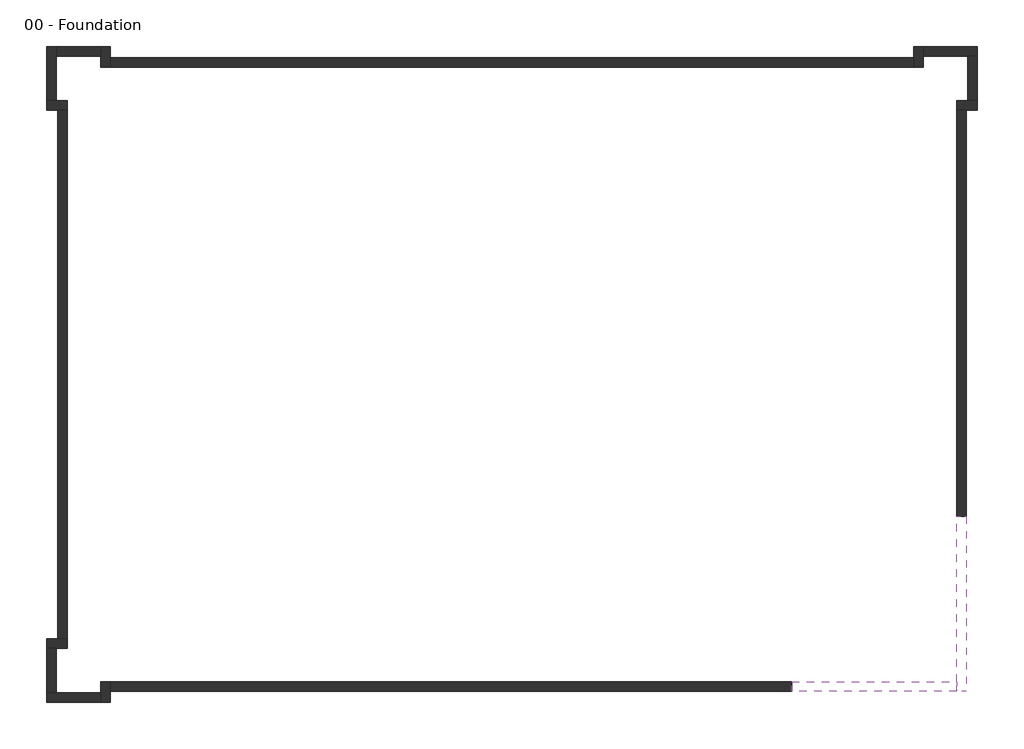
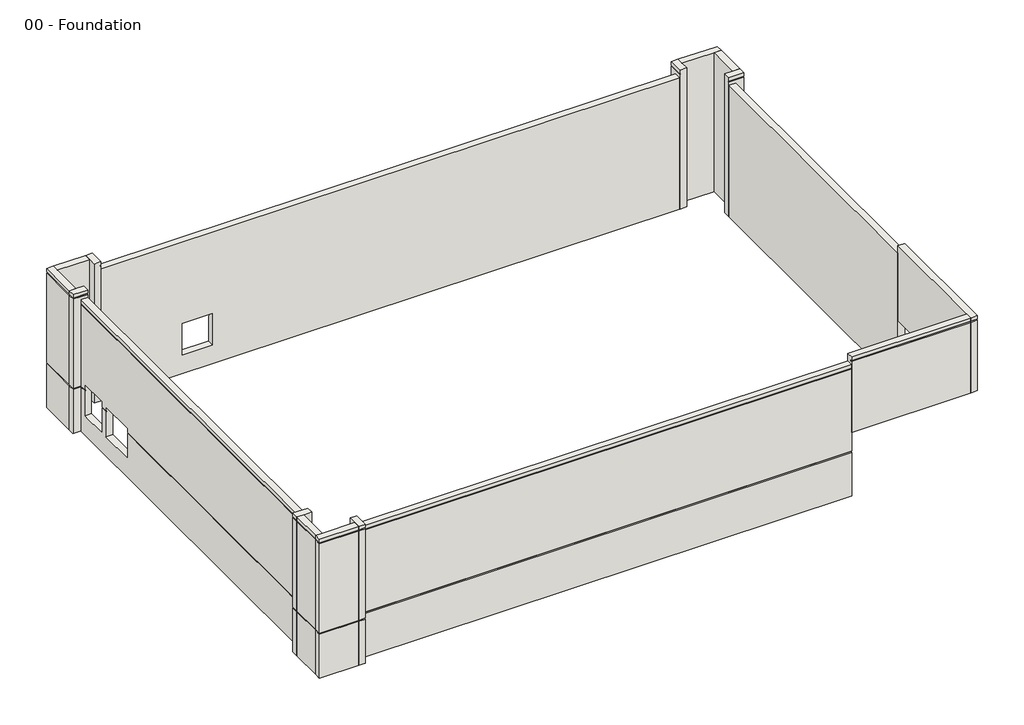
# One storey: 18 walls.
"""IFC4 building model written with IfcOpenShell, lengths in millimetres."""

import ifcopenshell
import ifcopenshell.guid

model = None  # the IFC model being written
_history = None  # IfcOwnerHistory: only IFC2X3 demands one
_inside = {}  # id of a spatial element -> (the spatial element, [elements in it])
_under = {}  # id of a project, library or spatial element -> (it, [spatial elements below it])
_declared = {}  # id of a project -> (the project, [libraries it declares])
_typed = {}  # id of a type object -> (the type object, [elements of that type])
_made_of = {}  # id of a material, layer set ... -> (it, [elements and type objects made of it])


def new_model(schema):
    """Start an empty IFC model of exactly this schema.

    Asked for "IFC4X3", IfcOpenShell would pick the latest addendum, in which some entities
    have other attributes; the version numbers below select the first issue.
    IFC2X3 requires an IfcOwnerHistory on every rooted entity: one is made here for all.
    """
    global model, _history
    if schema == "IFC4X3":
        model = ifcopenshell.file(schema_version=(4, 3, 0, 0))
    else:
        model = ifcopenshell.file(schema=schema)
    _inside.clear()
    _under.clear()
    _declared.clear()
    _typed.clear()
    _made_of.clear()
    _history = None
    if model.schema == "IFC2X3":
        org = make("IfcOrganization", Name="unknown")
        user = make(
            "IfcPersonAndOrganization",
            ThePerson=make("IfcPerson", FamilyName="unknown"),
            TheOrganization=org,
        )
        app = make(
            "IfcApplication",
            ApplicationDeveloper=org,
            Version="unknown",
            ApplicationFullName="unknown",
            ApplicationIdentifier="unknown",
        )
        _history = make(
            "IfcOwnerHistory",
            OwningUser=user,
            OwningApplication=app,
            ChangeAction="ADDED",
            CreationDate=0,
        )
    return model


def make(cls, **values):
    """One entity of the class cls with the attributes given. An attribute that is None is left unset."""
    return model.create_entity(
        cls, **{name: value for name, value in values.items() if value is not None}
    )


def rooted(cls, **values):
    """An entity with a GlobalId (a new one), such as an element, a storey or a relation."""
    return make(cls, GlobalId=ifcopenshell.guid.new(), OwnerHistory=_history, **values)


def si_unit(unit_type, name, prefix=None):
    """IfcSIUnit, for example si_unit("LENGTHUNIT", "METRE", prefix="MILLI")."""
    return make("IfcSIUnit", UnitType=unit_type, Prefix=prefix, Name=name)


def assignment(units):
    """IfcUnitAssignment: the units of a project."""
    return None if units is None else make("IfcUnitAssignment", Units=units)


def point(xyz):
    """IfcCartesianPoint."""
    return None if xyz is None else make("IfcCartesianPoint", Coordinates=xyz)


def direction(xyz):
    """IfcDirection."""
    return None if xyz is None else make("IfcDirection", DirectionRatios=xyz)


def frame(location, z_axis=None, x_axis=None):
    """IfcAxis2Placement3D, a coordinate frame: its origin and axes. An axis left out is left unset."""
    return make(
        "IfcAxis2Placement3D",
        Location=point(location),
        Axis=direction(z_axis),
        RefDirection=direction(x_axis),
    )


def origin():
    """The frame at (0, 0, 0) with its axes left unset."""
    return frame((0.0, 0.0, 0.0))


def place(relative_to, where):
    """IfcLocalPlacement: puts the frame where relative to a parent placement (None: the world)."""
    return make(
        "IfcLocalPlacement", PlacementRelTo=relative_to, RelativePlacement=where
    )


def context(
    kind, dimensions, precision=None, world=None, true_north=None, identifier=None
):
    """IfcGeometricRepresentationContext, for example the 3D "Model" context."""
    return make(
        "IfcGeometricRepresentationContext",
        ContextIdentifier=identifier,
        ContextType=kind,
        CoordinateSpaceDimension=dimensions,
        Precision=precision,
        WorldCoordinateSystem=world,
        TrueNorth=true_north,
    )


def project(units=None, contexts=None):
    """IfcProject with its units and contexts."""
    return rooted(
        "IfcProject",
        Name="project",
        RepresentationContexts=contexts,
        UnitsInContext=assignment(units),
    )


def spatial(cls, under=None, at=None, **own):
    """A site, building, storey or space (cls), placed at a placement, below another one or the project."""
    s = rooted(cls, ObjectPlacement=at, **own)
    if under is not None:
        _under.setdefault(under.id(), (under, []))[1].append(s)
    return s


def polyline(points):
    """IfcPolyline through the points."""
    return make("IfcPolyline", Points=[point(p) for p in points])


def outline(outer, holes=None, kind="AREA"):
    """IfcArbitraryClosedProfileDef: a profile drawn as a closed curve; with holes, ...WithVoids."""
    if holes is None:
        return make("IfcArbitraryClosedProfileDef", ProfileType=kind, OuterCurve=outer)
    return make(
        "IfcArbitraryProfileDefWithVoids",
        ProfileType=kind,
        OuterCurve=outer,
        InnerCurves=holes,
    )


def extrude(swept, where, along, depth):
    """IfcExtrudedAreaSolid: the profile swept, set in the frame where, extruded along a direction by depth."""
    return make(
        "IfcExtrudedAreaSolid",
        SweptArea=swept,
        Position=where,
        ExtrudedDirection=direction(along),
        Depth=depth,
    )


def faces_of(points, faces, orient=None, outer=None):
    """IfcFace entities. A face is a list of loops; a loop is a list of indices into points, from 0.

    orient and outer hold one flag for each loop. By default every Orientation is true, the
    first loop of a face is its IfcFaceOuterBound and the others are IfcFaceBound.
    """
    made = []
    for i, loops in enumerate(faces):
        bounds = []
        for j, loop in enumerate(loops):
            is_outer = j == 0 if outer is None else outer[i][j]
            bounds.append(
                make(
                    "IfcFaceOuterBound" if is_outer else "IfcFaceBound",
                    Bound=make("IfcPolyLoop", Polygon=[points[k] for k in loop]),
                    Orientation=True if orient is None else orient[i][j],
                )
            )
        made.append(make("IfcFace", Bounds=bounds))
    return made


def faceted_brep(points, faces, orient=None, outer=None, voids=None):
    """IfcFacetedBrep: a solid bounded by flat faces; with voids (closed shells), ...WithVoids."""
    shared = [point(p) for p in points]
    hull = make("IfcClosedShell", CfsFaces=faces_of(shared, faces, orient, outer))
    if voids is None:
        return make("IfcFacetedBrep", Outer=hull)
    return make(
        "IfcFacetedBrepWithVoids",
        Outer=hull,
        Voids=[
            make(cls, CfsFaces=faces_of(shared, fs, o, b)) for cls, fs, o, b in voids
        ],
    )


def shape(context_of_items, identifier, shape_type, items):
    """IfcShapeRepresentation: the items that make up one representation, for example the "Body"."""
    return make(
        "IfcShapeRepresentation",
        ContextOfItems=context_of_items,
        RepresentationIdentifier=identifier,
        RepresentationType=shape_type,
        Items=items,
    )


def made_of(thing, what):
    """Note that an element or type object is made of a material, layer set ...; save() writes the relation."""
    if what is not None:
        _made_of.setdefault(what.id(), (what, []))[1].append(thing)
    return thing


def element(
    cls,
    number,
    at=None,
    inside=None,
    cuts=None,
    type_object=None,
    material=None,
    context=None,
    identifier="Body",
    shape_type=None,
    held_by="IfcProductDefinitionShape",
    body=None,
    shapes=None,
    **own,
):
    """One element of the class cls, such as IfcWall. Its Tag is "e" and its number.

    at: its placement. inside: the storey or other place that contains it. cuts: it is an
    opening in that element (IfcRelVoidsElement). A single representation is given by context,
    identifier, shape_type and body (its items); several are given by shapes. held_by: the class
    of the entity that holds the representations. save() writes the other relations.
    """
    e = rooted(cls, Tag="e%d" % number, ObjectPlacement=at, **own)
    if body is not None:
        shapes = [shape(context, identifier, shape_type, body)]
    if shapes is not None:
        e.Representation = make(held_by, Representations=shapes)
    if inside is not None:
        _inside.setdefault(inside.id(), (inside, []))[1].append(e)
    if cuts is not None:
        rooted(
            "IfcRelVoidsElement", RelatingBuildingElement=cuts, RelatedOpeningElement=e
        )
    if type_object is not None:
        _typed.setdefault(type_object.id(), (type_object, []))[1].append(e)
    return made_of(e, material)


def aggregate(whole, parts):
    """IfcRelAggregates: a whole, such as a stair, and the parts it consists of."""
    return rooted("IfcRelAggregates", RelatingObject=whole, RelatedObjects=parts)


def save(model, path):
    """Write the relations noted so far, then the file.

    IfcRelAggregates (storeys below a building ...), IfcRelContainedInSpatialStructure (elements
    in a storey), IfcRelDefinesByType, IfcRelAssociatesMaterial and IfcRelDeclares: one each for
    every whole, place, type object, material and project.
    """
    for whole, parts in _under.values():
        aggregate(whole, parts)
    for where, things in _inside.values():
        rooted(
            "IfcRelContainedInSpatialStructure",
            RelatedElements=things,
            RelatingStructure=where,
        )
    for kind, things in _typed.values():
        rooted("IfcRelDefinesByType", RelatedObjects=things, RelatingType=kind)
    for what, things in _made_of.values():
        rooted("IfcRelAssociatesMaterial", RelatedObjects=things, RelatingMaterial=what)
    for by, libraries in _declared.values():
        rooted("IfcRelDeclares", RelatingContext=by, RelatedDefinitions=libraries)
    model.write(path)


model = new_model("IFC4")

# Units and contexts
model_context = context("Model", 3, world=origin())
ifc_project = project(units=[si_unit("LENGTHUNIT", "METRE", prefix="MILLI")], contexts=[model_context])

# Site, building, storey
site = spatial("IfcSite", under=ifc_project)
building = spatial("IfcBuilding", under=site)
storey = spatial("IfcBuildingStorey", under=building, Name="00 - Foundation", Elevation=-1250.0)

# Walls
placement = place(None, origin())
element("IfcWall", 1, ObjectType="Exterior - Render on Brick on Block @ Entry", at=placement, inside=storey, context=model_context, shape_type="Brep", body=[
    faceted_brep([(18351.5272279, -6481.9313057, 3000.0), (18351.5272279, -13977.9313057, 3000.0), (18351.5272279, -14406.9313057, 3000.0), (18351.5272279, -14406.9313057, 7700.0), (18351.5272279, -14331.9313057, 7700.0), (18351.5272279, -14331.9313057, 7775.0), (18351.5272279, -14406.9313057, 7775.0), (18351.5272279, -14406.9313057, 8000.0), (18351.5272279, -13977.9313057, 8000.0), (18351.5272279, -6481.9313057, 8000.0), (18351.5272279, -6481.9313057, 7500.0), (18780.5272279, -14406.9313057, 3000.0), (18780.5272279, -6481.9313057, 3000.0), (18780.5272279, -6481.9313057, 7200.0), (18780.5272279, -6481.9313057, 7275.0), (18780.5272279, -6481.9313057, 7500.0), (18780.5272279, -6481.9313057, 7700.0), (18780.5272279, -14406.9313057, 7700.0), (18780.5272279, -6481.9313057, 8000.0), (18780.5272279, -14406.9313057, 8000.0), (18780.5272279, -14406.9313057, 7775.0), (18780.5272279, -6481.9313057, 7775.0), (18705.5272279, -6481.9313057, 7775.0), (18705.5272279, -6481.9313057, 7700.0), (18705.5272279, -14331.9313057, 7775.0), (18705.5272279, -14331.9313057, 7700.0)], [[[0, 1, 2, 3, 4, 5, 6, 7, 8, 9, 10]], [[11, 12, 13, 14, 15, 16, 17]], [[18, 19, 20, 21]], [[2, 1, 0, 12, 11]], [[9, 8, 7, 19, 18]], [[0, 10, 9, 18, 21, 22, 23, 16, 15, 14, 13, 12]], [[24, 22, 21, 20, 6, 5]], [[23, 25, 4, 3, 17, 16]], [[22, 24, 25, 23]], [[2, 11, 17, 3]], [[19, 7, 6, 20]], [[25, 24, 5, 4]]]),
])
element("IfcWall", 2, ObjectType="Exterior - Render on Brick on Block @ Entry", at=placement, inside=storey, context=model_context, shape_type="Brep", body=[
    faceted_brep([(18351.5272279, -13977.9313057, 3000.0), (10855.5272279, -13977.9313057, 3000.0), (10855.5272279, -13977.9313057, 7500.0), (10855.5272279, -13977.9313057, 8000.0), (18351.5272279, -13977.9313057, 8000.0), (10855.5272279, -14406.9313057, 3000.0), (18351.5272279, -14406.9313057, 3000.0), (18351.5272279, -14406.9313057, 7700.0), (10855.5272279, -14406.9313057, 7700.0), (10855.5272279, -14406.9313057, 7500.0), (10855.5272279, -14406.9313057, 7275.0), (10855.5272279, -14406.9313057, 7200.0), (18351.5272279, -14406.9313057, 8000.0), (10855.5272279, -14406.9313057, 8000.0), (10855.5272279, -14406.9313057, 7775.0), (18351.5272279, -14406.9313057, 7775.0), (10855.5272279, -14331.9313057, 7700.0), (10855.5272279, -14331.9313057, 7775.0), (18351.5272279, -14331.9313057, 7700.0), (18351.5272279, -14331.9313057, 7775.0)], [[[0, 1, 2, 3, 4]], [[5, 6, 7, 8, 9, 10, 11]], [[12, 13, 14, 15]], [[1, 0, 6, 5]], [[3, 2, 1, 5, 11, 10, 9, 8, 16, 17, 14, 13]], [[4, 3, 13, 12]], [[16, 18, 19, 17]], [[0, 4, 12, 15, 19, 18, 7, 6]], [[17, 19, 15, 14]], [[18, 16, 8, 7]]]),
])
element("IfcWall", 3, ObjectType="Exterior - Render on Brick on Block", at=placement, inside=storey, context=model_context, shape_type="Brep", body=[
    faceted_brep([(10855.5272279, -13977.9313057, -1250.0), (-20031.4727721, -13977.9313057, -1250.0), (-20031.4727721, -13977.9313057, 7500.0), (10855.5272279, -13977.9313057, 7500.0), (10855.5272279, -13977.9313057, 3000.0), (10855.5272279, -14406.9313057, 7500.0), (-20031.4727721, -14406.9313057, 7500.0), (-20031.4727721, -14406.9313057, 7275.0), (10855.5272279, -14406.9313057, 7275.0), (-20031.4727721, -14406.9313057, -1250.0), (10855.5272279, -14406.9313057, -1250.0), (10855.5272279, -14406.9313057, 1675.0), (-20031.4727721, -14406.9313057, 1675.0), (-20031.4727721, -14406.9313057, 1750.0), (10855.5272279, -14406.9313057, 1750.0), (10855.5272279, -14406.9313057, 7200.0), (-20031.4727721, -14406.9313057, 7200.0), (10855.5272279, -14331.9313057, 7275.0), (10855.5272279, -14331.9313057, 7200.0), (10855.5272279, -14331.9313057, 1750.0), (10855.5272279, -14331.9313057, 1675.0), (10855.5272279, -14381.9313057, -1250.0), (-20031.4727721, -14381.9313057, -1250.0), (-20031.4727721, -14331.9313057, 1750.0), (-20031.4727721, -14331.9313057, 1675.0), (-20031.4727721, -14331.9313057, 7275.0), (-20031.4727721, -14331.9313057, 7200.0)], [[[0, 1, 2, 3, 4]], [[5, 6, 7, 8]], [[9, 10, 11, 12]], [[13, 14, 15, 16]], [[3, 2, 6, 5]], [[0, 4, 3, 5, 8, 17, 18, 15, 14, 19, 20, 11, 10, 21]], [[1, 0, 21, 22]], [[21, 10, 9, 22]], [[14, 13, 23, 19]], [[12, 11, 20, 24]], [[20, 19, 23, 24]], [[25, 17, 8, 7]], [[18, 26, 16, 15]], [[17, 25, 26, 18]], [[2, 1, 22, 9, 12, 24, 23, 13, 16, 26, 25, 7, 6]]]),
])
element("IfcWall", 4, ObjectType="Exterior - Render on Brick on Block", at=placement, inside=storey, context=model_context, shape_type="Brep", body=[
    faceted_brep([(-20460.4727721, -13977.9313057, -1250.0), (-20460.4727721, -14477.7313057, -1250.0), (-20460.4727721, -14906.7313057, -1250.0), (-20460.4727721, -14906.7313057, 1675.0), (-20460.4727721, -14831.7313057, 1675.0), (-20460.4727721, -14831.7313057, 1750.0), (-20460.4727721, -14906.7313057, 1750.0), (-20460.4727721, -14906.7313057, 7700.0), (-20460.4727721, -14831.7313057, 7700.0), (-20460.4727721, -14831.7313057, 7775.0), (-20460.4727721, -14906.7313057, 7775.0), (-20460.4727721, -14906.7313057, 8000.0), (-20460.4727721, -14477.7313057, 8000.0), (-20460.4727721, -13977.9313057, 8000.0), (-20031.4727721, -13977.9313057, 8000.0), (-20031.4727721, -14906.7313057, 8000.0), (-20031.4727721, -14906.7313057, 7775.0), (-20031.4727721, -13977.9313057, 7775.0), (-20031.4727721, -14906.7313057, -1250.0), (-20031.4727721, -14406.9313057, -1250.0), (-20031.4727721, -13977.9313057, -1250.0), (-20031.4727721, -13977.9313057, 7500.0), (-20031.4727721, -13977.9313057, 7700.0), (-20031.4727721, -14906.7313057, 7700.0), (-20031.4727721, -14906.7313057, 1750.0), (-20031.4727721, -14406.9313057, 1750.0), (-20031.4727721, -14331.9313057, 1750.0), (-20031.4727721, -14331.9313057, 1675.0), (-20031.4727721, -14406.9313057, 1675.0), (-20031.4727721, -14906.7313057, 1675.0), (-20056.4727721, -13977.9313057, -1250.0), (-20056.4727721, -14906.7313057, -1250.0), (-20106.4727721, -14331.9313057, 1675.0), (-20106.4727721, -14331.9313057, 1750.0), (-20106.4727721, -14831.7313057, 1750.0), (-20106.4727721, -14831.7313057, 1675.0), (-20106.4727721, -14831.7313057, 7775.0), (-20106.4727721, -13977.9313057, 7775.0), (-20106.4727721, -13977.9313057, 7700.0), (-20106.4727721, -14831.7313057, 7700.0)], [[[0, 1, 2, 3, 4, 5, 6, 7, 8, 9, 10, 11, 12, 13]], [[14, 15, 16, 17]], [[18, 19, 20, 21, 22, 23, 24, 25, 26, 27, 28, 29]], [[13, 12, 11, 15, 14]], [[2, 1, 0, 30, 31]], [[32, 33, 34, 35]], [[36, 37, 17, 16, 10, 9]], [[38, 39, 8, 7, 23, 22]], [[37, 36, 39, 38]], [[0, 13, 14, 17, 37, 38, 22, 21, 20, 30]], [[20, 19, 18, 31, 30]], [[34, 33, 26, 25, 24, 6, 5]], [[32, 35, 4, 3, 29, 28, 27]], [[33, 32, 27, 26]], [[15, 11, 10, 16]], [[2, 31, 18, 29, 3]], [[6, 24, 23, 7]], [[35, 34, 5, 4]], [[39, 36, 9, 8]]]),
])
element("IfcWall", 5, ObjectType="Exterior - Render on Brick on Block", at=placement, inside=storey, context=model_context, shape_type="Brep", body=[
    faceted_brep([(-20460.4727721, -14477.7313057, -1250.0), (-22490.4727721, -14477.7313057, -1250.0), (-22919.4727721, -14477.7313057, -1250.0), (-22919.4727721, -14477.7313057, 1675.0), (-22844.4727721, -14477.7313057, 1675.0), (-22844.4727721, -14477.7313057, 1750.0), (-22919.4727721, -14477.7313057, 1750.0), (-22919.4727721, -14477.7313057, 7700.0), (-22844.4727721, -14477.7313057, 7700.0), (-22844.4727721, -14477.7313057, 7775.0), (-22919.4727721, -14477.7313057, 7775.0), (-22919.4727721, -14477.7313057, 8000.0), (-22490.4727721, -14477.7313057, 8000.0), (-20460.4727721, -14477.7313057, 8000.0), (-20460.4727721, -14906.7313057, 8000.0), (-22919.4727721, -14906.7313057, 8000.0), (-22919.4727721, -14906.7313057, 7775.0), (-20460.4727721, -14906.7313057, 7775.0), (-22919.4727721, -14906.7313057, -1250.0), (-20460.4727721, -14906.7313057, -1250.0), (-20460.4727721, -14906.7313057, 1675.0), (-22919.4727721, -14906.7313057, 1675.0), (-22919.4727721, -14906.7313057, 1750.0), (-20460.4727721, -14906.7313057, 1750.0), (-20460.4727721, -14906.7313057, 7700.0), (-22919.4727721, -14906.7313057, 7700.0), (-20460.4727721, -14881.7313057, -1250.0), (-22919.4727721, -14881.7313057, -1250.0), (-22844.4727721, -14831.7313057, 1675.0), (-20460.4727721, -14831.7313057, 1675.0), (-20460.4727721, -14831.7313057, 1750.0), (-22844.4727721, -14831.7313057, 1750.0), (-22844.4727721, -14831.7313057, 7775.0), (-22844.4727721, -14831.7313057, 7700.0), (-20460.4727721, -14831.7313057, 7700.0), (-20460.4727721, -14831.7313057, 7775.0)], [[[0, 1, 2, 3, 4, 5, 6, 7, 8, 9, 10, 11, 12, 13]], [[14, 15, 16, 17]], [[18, 19, 20, 21]], [[22, 23, 24, 25]], [[13, 12, 11, 15, 14]], [[2, 1, 0, 26, 27]], [[28, 29, 30, 31]], [[32, 33, 34, 35]], [[0, 13, 14, 17, 35, 34, 24, 23, 30, 29, 20, 19, 26]], [[19, 18, 27, 26]], [[31, 30, 23, 22, 6, 5]], [[29, 28, 4, 3, 21, 20]], [[9, 32, 35, 17, 16, 10]], [[34, 33, 8, 7, 25, 24]], [[15, 11, 10, 16]], [[2, 27, 18, 21, 3]], [[6, 22, 25, 7]], [[28, 31, 5, 4]], [[33, 32, 9, 8]]]),
])
element("IfcWall", 6, ObjectType="Exterior - Render on Brick on Block", at=placement, inside=storey, context=model_context, shape_type="SweptSolid", body=[
    extrude(outline(polyline([(-1250.0, -22490.4727721), (8000.0, -22490.4727721), (8000.0, -22919.4727721), (7775.0, -22919.4727721), (7775.0, -22844.4727721), (7700.0, -22844.4727721), (7700.0, -22919.4727721), (1750.0, -22919.4727721), (1750.0, -22844.4727721), (1675.0, -22844.4727721), (1675.0, -22919.4727721), (-1250.0, -22919.4727721), (-1250.0, -22894.4727721), (-1250.0, -22490.4727721)])), frame((0.0, -14477.7313057, 0.0), z_axis=(0.0, 1.0, 0.0), x_axis=(0.0, 0.0, 1.0)), (0.0, 0.0, 1.0), 2030.0),
])
element("IfcWall", 7, ObjectType="Exterior - Render on Brick on Block", at=placement, inside=storey, context=model_context, shape_type="Brep", body=[
    faceted_brep([(-22919.4727721, -12447.7313057, -1250.0), (-22490.4727721, -12447.7313057, -1250.0), (-21990.4727721, -12447.7313057, -1250.0), (-21990.4727721, -12447.7313057, 8000.0), (-22490.4727721, -12447.7313057, 8000.0), (-22919.4727721, -12447.7313057, 8000.0), (-22919.4727721, -12447.7313057, 7775.0), (-22844.4727721, -12447.7313057, 7775.0), (-22844.4727721, -12447.7313057, 7700.0), (-22919.4727721, -12447.7313057, 7700.0), (-22919.4727721, -12447.7313057, 1750.0), (-22844.4727721, -12447.7313057, 1750.0), (-22844.4727721, -12447.7313057, 1675.0), (-22919.4727721, -12447.7313057, 1675.0), (-22919.4727721, -12018.7313057, 8000.0), (-21990.4727721, -12018.7313057, 8000.0), (-21990.4727721, -12018.7313057, 7775.0), (-22919.4727721, -12018.7313057, 7775.0), (-21990.4727721, -12018.7313057, -1250.0), (-22419.4727721, -12018.7313057, -1250.0), (-22919.4727721, -12018.7313057, -1250.0), (-22919.4727721, -12018.7313057, 1675.0), (-22419.4727721, -12018.7313057, 1675.0), (-22344.4727721, -12018.7313057, 1675.0), (-22344.4727721, -12018.7313057, 1750.0), (-22419.4727721, -12018.7313057, 1750.0), (-22919.4727721, -12018.7313057, 1750.0), (-22919.4727721, -12018.7313057, 7700.0), (-21990.4727721, -12018.7313057, 7700.0), (-21990.4727721, -12018.7313057, 7500.0), (-22919.4727721, -12043.7313057, -1250.0), (-21990.4727721, -12043.7313057, -1250.0), (-22844.4727721, -12093.7313057, 1675.0), (-22844.4727721, -12093.7313057, 1750.0), (-22344.4727721, -12093.7313057, 1750.0), (-22344.4727721, -12093.7313057, 1675.0), (-22844.4727721, -12093.7313057, 7775.0), (-21990.4727721, -12093.7313057, 7775.0), (-21990.4727721, -12093.7313057, 7700.0), (-22844.4727721, -12093.7313057, 7700.0)], [[[0, 1, 2, 3, 4, 5, 6, 7, 8, 9, 10, 11, 12, 13]], [[14, 15, 16, 17]], [[18, 19, 20, 21, 22, 23, 24, 25, 26, 27, 28, 29]], [[5, 4, 3, 15, 14]], [[2, 1, 0, 30, 31]], [[32, 33, 34, 35]], [[36, 37, 38, 39]], [[5, 14, 17, 6]], [[30, 0, 13, 21, 20]], [[26, 10, 9, 27]], [[20, 19, 18, 31, 30]], [[34, 33, 11, 10, 26, 25, 24]], [[32, 35, 23, 22, 21, 13, 12]], [[33, 32, 12, 11]], [[37, 36, 7, 6, 17, 16]], [[39, 38, 28, 27, 9, 8]], [[36, 39, 8, 7]], [[3, 2, 31, 18, 29, 28, 38, 37, 16, 15]], [[35, 34, 24, 23]]]),
])
element("IfcWall", 8, ObjectType="Exterior - Render on Brick on Block", at=placement, inside=storey, context=model_context, shape_type="Brep", body=[
    faceted_brep([(-21990.4727721, -12018.7313057, -1250.0), (-21990.4727721, 11955.0686943, -1250.0), (-21990.4727721, 11955.0686943, 7500.0), (-21990.4727721, -12018.7313057, 7500.0), (-21990.4727721, 9255.0686943, 2000.0), (-21990.4727721, 9255.0686943, 0.0), (-21990.4727721, 6855.0686943, 0.0), (-21990.4727721, 6855.0686943, 2000.0), (-21990.4727721, 9655.0686943, 2100.0), (-21990.4727721, 11555.0686943, 2100.0), (-21990.4727721, 11555.0686943, 0.0), (-21990.4727721, 9655.0686943, 0.0), (-22419.4727721, -12018.7313057, 7500.0), (-22419.4727721, 11955.0686943, 7500.0), (-22419.4727721, 11955.0686943, 7275.0), (-22419.4727721, -12018.7313057, 7275.0), (-22419.4727721, 11955.0686943, -1250.0), (-22419.4727721, -12018.7313057, -1250.0), (-22419.4727721, -12018.7313057, 1675.0), (-22419.4727721, 6855.0686943, 1675.0), (-22419.4727721, 6855.0686943, 0.0), (-22419.4727721, 9255.0686943, 0.0), (-22419.4727721, 9255.0686943, 1675.0), (-22419.4727721, 9655.0686943, 1675.0), (-22419.4727721, 9655.0686943, 0.0), (-22419.4727721, 11555.0686943, 0.0), (-22419.4727721, 11555.0686943, 1675.0), (-22419.4727721, 11955.0686943, 1675.0), (-22419.4727721, 11955.0686943, 1750.0), (-22419.4727721, 11555.0686943, 1750.0), (-22419.4727721, 11555.0686943, 2100.0), (-22419.4727721, 9655.0686943, 2100.0), (-22419.4727721, 9655.0686943, 1750.0), (-22419.4727721, 9255.0686943, 1750.0), (-22419.4727721, 9255.0686943, 2000.0), (-22419.4727721, 6855.0686943, 2000.0), (-22419.4727721, 6855.0686943, 1750.0), (-22419.4727721, -12018.7313057, 1750.0), (-22419.4727721, -12018.7313057, 7200.0), (-22419.4727721, 11955.0686943, 7200.0), (-22394.4727721, -12018.7313057, -1250.0), (-22394.4727721, 11955.0686943, -1250.0), (-22344.4727721, 11955.0686943, 1750.0), (-22344.4727721, 11555.0686943, 1750.0), (-22344.4727721, 11555.0686943, 1675.0), (-22344.4727721, 11955.0686943, 1675.0), (-22344.4727721, 11955.0686943, 7275.0), (-22344.4727721, -12018.7313057, 7275.0), (-22344.4727721, -12018.7313057, 7200.0), (-22344.4727721, 11955.0686943, 7200.0), (-22344.4727721, -12018.7313057, 1750.0), (-22344.4727721, -12018.7313057, 1675.0), (-22344.4727721, 6855.0686943, 1750.0), (-22344.4727721, 6855.0686943, 1675.0), (-22344.4727721, 9255.0686943, 1750.0), (-22344.4727721, 9255.0686943, 1675.0), (-22344.4727721, 9655.0686943, 1750.0), (-22344.4727721, 9655.0686943, 1675.0)], [[[0, 1, 2, 3], [4, 5, 6, 7], [8, 9, 10, 11]], [[12, 13, 14, 15]], [[16, 17, 18, 19, 20, 21, 22, 23, 24, 25, 26, 27]], [[28, 29, 30, 31, 32, 33, 34, 35, 36, 37, 38, 39]], [[3, 2, 13, 12]], [[1, 0, 40, 41]], [[29, 28, 42, 43]], [[27, 26, 44, 45]], [[45, 44, 43, 42]], [[46, 47, 15, 14]], [[48, 49, 39, 38]], [[47, 46, 49, 48]], [[0, 3, 12, 15, 47, 48, 38, 37, 50, 51, 18, 17, 40]], [[17, 16, 41, 40]], [[37, 36, 52, 50]], [[19, 18, 51, 53]], [[2, 1, 41, 16, 27, 45, 42, 28, 39, 49, 46, 14, 13]], [[5, 4, 34, 33, 54, 55, 22, 21]], [[35, 34, 4, 7]], [[7, 6, 20, 19, 53, 52, 36, 35]], [[21, 20, 6, 5]], [[54, 56, 57, 55]], [[56, 54, 33, 32]], [[55, 57, 23, 22]], [[8, 31, 30, 9]], [[31, 8, 11, 24, 23, 57, 56, 32]], [[24, 11, 10, 25]], [[9, 30, 29, 43, 44, 26, 25, 10]], [[50, 52, 53, 51]]]),
])
element("IfcWall", 9, ObjectType="Exterior - Render on Brick on Block", at=placement, inside=storey, context=model_context, shape_type="Brep", body=[
    faceted_brep([(-21990.4727721, 12384.0686943, -1250.0), (-22490.4727721, 12384.0686943, -1250.0), (-22919.4727721, 12384.0686943, -1250.0), (-22919.4727721, 12384.0686943, 1675.0), (-22844.4727721, 12384.0686943, 1675.0), (-22844.4727721, 12384.0686943, 1750.0), (-22919.4727721, 12384.0686943, 1750.0), (-22919.4727721, 12384.0686943, 7700.0), (-22844.4727721, 12384.0686943, 7700.0), (-22844.4727721, 12384.0686943, 7775.0), (-22919.4727721, 12384.0686943, 7775.0), (-22919.4727721, 12384.0686943, 8000.0), (-22490.4727721, 12384.0686943, 8000.0), (-21990.4727721, 12384.0686943, 8000.0), (-21990.4727721, 11955.0686943, 8000.0), (-22919.4727721, 11955.0686943, 8000.0), (-22919.4727721, 11955.0686943, 7775.0), (-21990.4727721, 11955.0686943, 7775.0), (-22919.4727721, 11955.0686943, -1250.0), (-22419.4727721, 11955.0686943, -1250.0), (-21990.4727721, 11955.0686943, -1250.0), (-21990.4727721, 11955.0686943, 7500.0), (-21990.4727721, 11955.0686943, 7700.0), (-22919.4727721, 11955.0686943, 7700.0), (-22919.4727721, 11955.0686943, 1750.0), (-22419.4727721, 11955.0686943, 1750.0), (-22344.4727721, 11955.0686943, 1750.0), (-22344.4727721, 11955.0686943, 1675.0), (-22419.4727721, 11955.0686943, 1675.0), (-22919.4727721, 11955.0686943, 1675.0), (-21990.4727721, 11980.0686943, -1250.0), (-22919.4727721, 11980.0686943, -1250.0), (-22344.4727721, 12030.0686943, 1675.0), (-22344.4727721, 12030.0686943, 1750.0), (-22844.4727721, 12030.0686943, 1750.0), (-22844.4727721, 12030.0686943, 1675.0), (-22844.4727721, 12030.0686943, 7775.0), (-21990.4727721, 12030.0686943, 7775.0), (-21990.4727721, 12030.0686943, 7700.0), (-22844.4727721, 12030.0686943, 7700.0)], [[[0, 1, 2, 3, 4, 5, 6, 7, 8, 9, 10, 11, 12, 13]], [[14, 15, 16, 17]], [[18, 19, 20, 21, 22, 23, 24, 25, 26, 27, 28, 29]], [[13, 12, 11, 15, 14]], [[2, 1, 0, 30, 31]], [[32, 33, 34, 35]], [[36, 37, 17, 16, 10, 9]], [[38, 39, 8, 7, 23, 22]], [[37, 36, 39, 38]], [[0, 13, 14, 17, 37, 38, 22, 21, 20, 30]], [[20, 19, 18, 31, 30]], [[34, 33, 26, 25, 24, 6, 5]], [[32, 35, 4, 3, 29, 28, 27]], [[33, 32, 27, 26]], [[15, 11, 10, 16]], [[2, 31, 18, 29, 3]], [[6, 24, 23, 7]], [[35, 34, 5, 4]], [[39, 36, 9, 8]]]),
])
element("IfcWall", 10, ObjectType="Exterior - Render on Brick on Block", at=placement, inside=storey, context=model_context, shape_type="Brep", body=[
    faceted_brep([(-22490.4727721, 12384.0686943, -1250.0), (-22490.4727721, 14414.0686943, -1250.0), (-22490.4727721, 14843.0686943, -1250.0), (-22490.4727721, 14843.0686943, 1675.0), (-22490.4727721, 14768.0686943, 1675.0), (-22490.4727721, 14768.0686943, 1750.0), (-22490.4727721, 14843.0686943, 1750.0), (-22490.4727721, 14843.0686943, 7700.0), (-22490.4727721, 14768.0686943, 7700.0), (-22490.4727721, 14768.0686943, 7775.0), (-22490.4727721, 14843.0686943, 7775.0), (-22490.4727721, 14843.0686943, 8000.0), (-22490.4727721, 14414.0686943, 8000.0), (-22490.4727721, 12384.0686943, 8000.0), (-22919.4727721, 12384.0686943, 8000.0), (-22919.4727721, 14843.0686943, 8000.0), (-22919.4727721, 14843.0686943, 7775.0), (-22919.4727721, 12384.0686943, 7775.0), (-22919.4727721, 14843.0686943, -1250.0), (-22919.4727721, 12384.0686943, -1250.0), (-22919.4727721, 12384.0686943, 1675.0), (-22919.4727721, 14843.0686943, 1675.0), (-22919.4727721, 14843.0686943, 1750.0), (-22919.4727721, 12384.0686943, 1750.0), (-22919.4727721, 12384.0686943, 7700.0), (-22919.4727721, 14843.0686943, 7700.0), (-22894.4727721, 12384.0686943, -1250.0), (-22894.4727721, 14843.0686943, -1250.0), (-22844.4727721, 14768.0686943, 1675.0), (-22844.4727721, 12384.0686943, 1675.0), (-22844.4727721, 12384.0686943, 1750.0), (-22844.4727721, 14768.0686943, 1750.0), (-22844.4727721, 14768.0686943, 7775.0), (-22844.4727721, 14768.0686943, 7700.0), (-22844.4727721, 12384.0686943, 7700.0), (-22844.4727721, 12384.0686943, 7775.0)], [[[0, 1, 2, 3, 4, 5, 6, 7, 8, 9, 10, 11, 12, 13]], [[14, 15, 16, 17]], [[18, 19, 20, 21]], [[22, 23, 24, 25]], [[13, 12, 11, 15, 14]], [[2, 1, 0, 26, 27]], [[28, 29, 30, 31]], [[32, 33, 34, 35]], [[0, 13, 14, 17, 35, 34, 24, 23, 30, 29, 20, 19, 26]], [[19, 18, 27, 26]], [[31, 30, 23, 22, 6, 5]], [[29, 28, 4, 3, 21, 20]], [[9, 32, 35, 17, 16, 10]], [[34, 33, 8, 7, 25, 24]], [[15, 11, 10, 16]], [[2, 27, 18, 21, 3]], [[6, 22, 25, 7]], [[28, 31, 5, 4]], [[33, 32, 9, 8]]]),
])
element("IfcWall", 11, ObjectType="Exterior - Render on Brick on Block", at=placement, inside=storey, context=model_context, shape_type="SweptSolid", body=[
    extrude(outline(polyline([(14414.0686943, -1250.0), (14414.0686943, 8000.0), (14843.0686943, 8000.0), (14843.0686943, 7775.0), (14768.0686943, 7775.0), (14768.0686943, 7700.0), (14843.0686943, 7700.0), (14843.0686943, 1750.0), (14768.0686943, 1750.0), (14768.0686943, 1675.0), (14843.0686943, 1675.0), (14843.0686943, -1250.0), (14818.0686943, -1250.0), (14414.0686943, -1250.0)])), frame((-22490.4727721, 0.0, 0.0), z_axis=(1.0, 0.0, 0.0), x_axis=(0.0, 1.0, 0.0)), (0.0, 0.0, 1.0), 2030.0),
])
element("IfcWall", 12, ObjectType="Exterior - Render on Brick on Block", at=placement, inside=storey, context=model_context, shape_type="Brep", body=[
    faceted_brep([(-20460.4727721, 14843.0686943, -1250.0), (-20460.4727721, 14414.0686943, -1250.0), (-20460.4727721, 13914.0686943, -1250.0), (-20460.4727721, 13914.0686943, 8000.0), (-20460.4727721, 14414.0686943, 8000.0), (-20460.4727721, 14843.0686943, 8000.0), (-20460.4727721, 14843.0686943, 7775.0), (-20460.4727721, 14768.0686943, 7775.0), (-20460.4727721, 14768.0686943, 7700.0), (-20460.4727721, 14843.0686943, 7700.0), (-20460.4727721, 14843.0686943, 1750.0), (-20460.4727721, 14768.0686943, 1750.0), (-20460.4727721, 14768.0686943, 1675.0), (-20460.4727721, 14843.0686943, 1675.0), (-20031.4727721, 14843.0686943, 8000.0), (-20031.4727721, 13914.0686943, 8000.0), (-20031.4727721, 13914.0686943, 7775.0), (-20031.4727721, 14843.0686943, 7775.0), (-20031.4727721, 13914.0686943, -1250.0), (-20031.4727721, 14343.0686943, -1250.0), (-20031.4727721, 14843.0686943, -1250.0), (-20031.4727721, 14843.0686943, 1675.0), (-20031.4727721, 14343.0686943, 1675.0), (-20031.4727721, 14268.0686943, 1675.0), (-20031.4727721, 14268.0686943, 1750.0), (-20031.4727721, 14343.0686943, 1750.0), (-20031.4727721, 14843.0686943, 1750.0), (-20031.4727721, 14843.0686943, 7700.0), (-20031.4727721, 13914.0686943, 7700.0), (-20031.4727721, 13914.0686943, 7500.0), (-20056.4727721, 14843.0686943, -1250.0), (-20056.4727721, 13914.0686943, -1250.0), (-20106.4727721, 14768.0686943, 1675.0), (-20106.4727721, 14768.0686943, 1750.0), (-20106.4727721, 14268.0686943, 1750.0), (-20106.4727721, 14268.0686943, 1675.0), (-20106.4727721, 14768.0686943, 7775.0), (-20106.4727721, 13914.0686943, 7775.0), (-20106.4727721, 13914.0686943, 7700.0), (-20106.4727721, 14768.0686943, 7700.0)], [[[0, 1, 2, 3, 4, 5, 6, 7, 8, 9, 10, 11, 12, 13]], [[14, 15, 16, 17]], [[18, 19, 20, 21, 22, 23, 24, 25, 26, 27, 28, 29]], [[5, 4, 3, 15, 14]], [[2, 1, 0, 30, 31]], [[32, 33, 34, 35]], [[36, 37, 38, 39]], [[5, 14, 17, 6]], [[30, 0, 13, 21, 20]], [[26, 10, 9, 27]], [[20, 19, 18, 31, 30]], [[34, 33, 11, 10, 26, 25, 24]], [[32, 35, 23, 22, 21, 13, 12]], [[33, 32, 12, 11]], [[37, 36, 7, 6, 17, 16]], [[39, 38, 28, 27, 9, 8]], [[36, 39, 8, 7]], [[3, 2, 31, 18, 29, 28, 38, 37, 16, 15]], [[35, 34, 24, 23]]]),
])
element("IfcWall", 13, ObjectType="Exterior - Render on Brick on Block", at=placement, inside=storey, context=model_context, shape_type="Brep", body=[
    faceted_brep([(-20031.4727721, 13914.0686943, -1250.0), (16392.5272279, 13914.0686943, -1250.0), (16392.5272279, 13914.0686943, 7500.0), (-20031.4727721, 13914.0686943, 7500.0), (-14912.4227721, 13914.0686943, 0.0), (-14912.4227721, 13914.0686943, 2100.0), (-13012.4227721, 13914.0686943, 2100.0), (-13012.4227721, 13914.0686943, 0.0), (-20031.4727721, 14343.0686943, 7500.0), (16392.5272279, 14343.0686943, 7500.0), (16392.5272279, 14343.0686943, 7275.0), (-20031.4727721, 14343.0686943, 7275.0), (16392.5272279, 14343.0686943, -1250.0), (-20031.4727721, 14343.0686943, -1250.0), (-20031.4727721, 14343.0686943, 1675.0), (-14912.4227721, 14343.0686943, 1675.0), (-14912.4227721, 14343.0686943, 0.0), (-13012.4227721, 14343.0686943, 0.0), (-13012.4227721, 14343.0686943, 1675.0), (16392.5272279, 14343.0686943, 1675.0), (16392.5272279, 14343.0686943, 1750.0), (-13012.4227721, 14343.0686943, 1750.0), (-13012.4227721, 14343.0686943, 2100.0), (-14912.4227721, 14343.0686943, 2100.0), (-14912.4227721, 14343.0686943, 1750.0), (-20031.4727721, 14343.0686943, 1750.0), (-20031.4727721, 14343.0686943, 7200.0), (16392.5272279, 14343.0686943, 7200.0), (-20031.4727721, 14318.0686943, -1250.0), (16392.5272279, 14318.0686943, -1250.0), (16392.5272279, 14268.0686943, 1750.0), (-13012.4227721, 14268.0686943, 1750.0), (-13012.4227721, 14268.0686943, 1675.0), (16392.5272279, 14268.0686943, 1675.0), (16392.5272279, 14268.0686943, 7275.0), (-20031.4727721, 14268.0686943, 7275.0), (-20031.4727721, 14268.0686943, 7200.0), (16392.5272279, 14268.0686943, 7200.0), (-20031.4727721, 14268.0686943, 1750.0), (-20031.4727721, 14268.0686943, 1675.0), (-14912.4227721, 14268.0686943, 1750.0), (-14912.4227721, 14268.0686943, 1675.0)], [[[0, 1, 2, 3], [4, 5, 6, 7]], [[8, 9, 10, 11]], [[12, 13, 14, 15, 16, 17, 18, 19]], [[20, 21, 22, 23, 24, 25, 26, 27]], [[3, 2, 9, 8]], [[1, 0, 28, 29]], [[21, 20, 30, 31]], [[19, 18, 32, 33]], [[33, 32, 31, 30]], [[34, 35, 11, 10]], [[36, 37, 27, 26]], [[35, 34, 37, 36]], [[0, 3, 8, 11, 35, 36, 26, 25, 38, 39, 14, 13, 28]], [[13, 12, 29, 28]], [[25, 24, 40, 38]], [[15, 14, 39, 41]], [[2, 1, 29, 12, 19, 33, 30, 20, 27, 37, 34, 10, 9]], [[5, 4, 16, 15, 41, 40, 24, 23]], [[6, 5, 23, 22]], [[7, 6, 22, 21, 31, 32, 18, 17]], [[4, 7, 17, 16]], [[38, 40, 41, 39]]]),
])
element("IfcWall", 14, ObjectType="Exterior - Render on Brick on Block", at=placement, inside=storey, context=model_context, shape_type="Brep", body=[
    faceted_brep([(16821.5272279, 13914.0686943, -1250.0), (16821.5272279, 14414.0686943, -1250.0), (16821.5272279, 14843.0686943, -1250.0), (16821.5272279, 14843.0686943, 1675.0), (16821.5272279, 14768.0686943, 1675.0), (16821.5272279, 14768.0686943, 1750.0), (16821.5272279, 14843.0686943, 1750.0), (16821.5272279, 14843.0686943, 7700.0), (16821.5272279, 14768.0686943, 7700.0), (16821.5272279, 14768.0686943, 7775.0), (16821.5272279, 14843.0686943, 7775.0), (16821.5272279, 14843.0686943, 8000.0), (16821.5272279, 14414.0686943, 8000.0), (16821.5272279, 13914.0686943, 8000.0), (16392.5272279, 13914.0686943, 8000.0), (16392.5272279, 14843.0686943, 8000.0), (16392.5272279, 14843.0686943, 7775.0), (16392.5272279, 13914.0686943, 7775.0), (16392.5272279, 14843.0686943, -1250.0), (16392.5272279, 14343.0686943, -1250.0), (16392.5272279, 13914.0686943, -1250.0), (16392.5272279, 13914.0686943, 7500.0), (16392.5272279, 13914.0686943, 7700.0), (16392.5272279, 14843.0686943, 7700.0), (16392.5272279, 14843.0686943, 1750.0), (16392.5272279, 14343.0686943, 1750.0), (16392.5272279, 14268.0686943, 1750.0), (16392.5272279, 14268.0686943, 1675.0), (16392.5272279, 14343.0686943, 1675.0), (16392.5272279, 14843.0686943, 1675.0), (16417.5272279, 13914.0686943, -1250.0), (16417.5272279, 14843.0686943, -1250.0), (16467.5272279, 14268.0686943, 1675.0), (16467.5272279, 14268.0686943, 1750.0), (16467.5272279, 14768.0686943, 1750.0), (16467.5272279, 14768.0686943, 1675.0), (16467.5272279, 14768.0686943, 7775.0), (16467.5272279, 13914.0686943, 7775.0), (16467.5272279, 13914.0686943, 7700.0), (16467.5272279, 14768.0686943, 7700.0)], [[[0, 1, 2, 3, 4, 5, 6, 7, 8, 9, 10, 11, 12, 13]], [[14, 15, 16, 17]], [[18, 19, 20, 21, 22, 23, 24, 25, 26, 27, 28, 29]], [[13, 12, 11, 15, 14]], [[2, 1, 0, 30, 31]], [[32, 33, 34, 35]], [[36, 37, 17, 16, 10, 9]], [[38, 39, 8, 7, 23, 22]], [[37, 36, 39, 38]], [[0, 13, 14, 17, 37, 38, 22, 21, 20, 30]], [[20, 19, 18, 31, 30]], [[34, 33, 26, 25, 24, 6, 5]], [[32, 35, 4, 3, 29, 28, 27]], [[33, 32, 27, 26]], [[15, 11, 10, 16]], [[2, 31, 18, 29, 3]], [[6, 24, 23, 7]], [[35, 34, 5, 4]], [[39, 36, 9, 8]]]),
])
element("IfcWall", 15, ObjectType="Exterior - Render on Brick on Block", at=placement, inside=storey, context=model_context, shape_type="Brep", body=[
    faceted_brep([(16821.5272279, 14414.0686943, -1250.0), (18851.5272279, 14414.0686943, -1250.0), (19280.5272279, 14414.0686943, -1250.0), (19280.5272279, 14414.0686943, 1675.0), (19205.5272279, 14414.0686943, 1675.0), (19205.5272279, 14414.0686943, 1750.0), (19280.5272279, 14414.0686943, 1750.0), (19280.5272279, 14414.0686943, 7700.0), (19205.5272279, 14414.0686943, 7700.0), (19205.5272279, 14414.0686943, 7775.0), (19280.5272279, 14414.0686943, 7775.0), (19280.5272279, 14414.0686943, 8000.0), (18851.5272279, 14414.0686943, 8000.0), (16821.5272279, 14414.0686943, 8000.0), (16821.5272279, 14843.0686943, 8000.0), (19280.5272279, 14843.0686943, 8000.0), (19280.5272279, 14843.0686943, 7775.0), (16821.5272279, 14843.0686943, 7775.0), (19280.5272279, 14843.0686943, -1250.0), (16821.5272279, 14843.0686943, -1250.0), (16821.5272279, 14843.0686943, 1675.0), (19280.5272279, 14843.0686943, 1675.0), (19280.5272279, 14843.0686943, 1750.0), (16821.5272279, 14843.0686943, 1750.0), (16821.5272279, 14843.0686943, 7700.0), (19280.5272279, 14843.0686943, 7700.0), (16821.5272279, 14818.0686943, -1250.0), (19280.5272279, 14818.0686943, -1250.0), (19205.5272279, 14768.0686943, 1675.0), (16821.5272279, 14768.0686943, 1675.0), (16821.5272279, 14768.0686943, 1750.0), (19205.5272279, 14768.0686943, 1750.0), (19205.5272279, 14768.0686943, 7775.0), (19205.5272279, 14768.0686943, 7700.0), (16821.5272279, 14768.0686943, 7700.0), (16821.5272279, 14768.0686943, 7775.0)], [[[0, 1, 2, 3, 4, 5, 6, 7, 8, 9, 10, 11, 12, 13]], [[14, 15, 16, 17]], [[18, 19, 20, 21]], [[22, 23, 24, 25]], [[13, 12, 11, 15, 14]], [[2, 1, 0, 26, 27]], [[28, 29, 30, 31]], [[32, 33, 34, 35]], [[0, 13, 14, 17, 35, 34, 24, 23, 30, 29, 20, 19, 26]], [[19, 18, 27, 26]], [[31, 30, 23, 22, 6, 5]], [[29, 28, 4, 3, 21, 20]], [[9, 32, 35, 17, 16, 10]], [[34, 33, 8, 7, 25, 24]], [[15, 11, 10, 16]], [[2, 27, 18, 21, 3]], [[6, 22, 25, 7]], [[28, 31, 5, 4]], [[33, 32, 9, 8]]]),
])
element("IfcWall", 16, ObjectType="Exterior - Render on Brick on Block", at=placement, inside=storey, context=model_context, shape_type="SweptSolid", body=[
    extrude(outline(polyline([(8000.0, 18851.5272279), (-1250.0, 18851.5272279), (-1250.0, 19255.5272279), (-1250.0, 19280.5272279), (1675.0, 19280.5272279), (1675.0, 19205.5272279), (1750.0, 19205.5272279), (1750.0, 19280.5272279), (7700.0, 19280.5272279), (7700.0, 19205.5272279), (7775.0, 19205.5272279), (7775.0, 19280.5272279), (8000.0, 19280.5272279), (8000.0, 18851.5272279)])), frame((0.0, 12384.0686943, 0.0), z_axis=(0.0, 1.0, 0.0), x_axis=(0.0, 0.0, 1.0)), (0.0, 0.0, 1.0), 2030.0),
])
element("IfcWall", 17, ObjectType="Exterior - Render on Brick on Block", at=placement, inside=storey, context=model_context, shape_type="Brep", body=[
    faceted_brep([(19280.5272279, 12384.0686943, -1250.0), (18851.5272279, 12384.0686943, -1250.0), (18351.5272279, 12384.0686943, -1250.0), (18351.5272279, 12384.0686943, 8000.0), (18851.5272279, 12384.0686943, 8000.0), (19280.5272279, 12384.0686943, 8000.0), (19280.5272279, 12384.0686943, 7775.0), (19205.5272279, 12384.0686943, 7775.0), (19205.5272279, 12384.0686943, 7700.0), (19280.5272279, 12384.0686943, 7700.0), (19280.5272279, 12384.0686943, 1750.0), (19205.5272279, 12384.0686943, 1750.0), (19205.5272279, 12384.0686943, 1675.0), (19280.5272279, 12384.0686943, 1675.0), (19280.5272279, 11955.0686943, 8000.0), (18351.5272279, 11955.0686943, 8000.0), (18351.5272279, 11955.0686943, 7775.0), (19280.5272279, 11955.0686943, 7775.0), (18351.5272279, 11955.0686943, -1250.0), (18780.5272279, 11955.0686943, -1250.0), (19280.5272279, 11955.0686943, -1250.0), (19280.5272279, 11955.0686943, 1675.0), (18780.5272279, 11955.0686943, 1675.0), (18705.5272279, 11955.0686943, 1675.0), (18705.5272279, 11955.0686943, 1750.0), (18780.5272279, 11955.0686943, 1750.0), (19280.5272279, 11955.0686943, 1750.0), (19280.5272279, 11955.0686943, 7700.0), (18351.5272279, 11955.0686943, 7700.0), (18351.5272279, 11955.0686943, 7500.0), (19280.5272279, 11980.0686943, -1250.0), (18351.5272279, 11980.0686943, -1250.0), (19205.5272279, 12030.0686943, 1675.0), (19205.5272279, 12030.0686943, 1750.0), (18705.5272279, 12030.0686943, 1750.0), (18705.5272279, 12030.0686943, 1675.0), (19205.5272279, 12030.0686943, 7775.0), (18351.5272279, 12030.0686943, 7775.0), (18351.5272279, 12030.0686943, 7700.0), (19205.5272279, 12030.0686943, 7700.0)], [[[0, 1, 2, 3, 4, 5, 6, 7, 8, 9, 10, 11, 12, 13]], [[14, 15, 16, 17]], [[18, 19, 20, 21, 22, 23, 24, 25, 26, 27, 28, 29]], [[5, 4, 3, 15, 14]], [[2, 1, 0, 30, 31]], [[32, 33, 34, 35]], [[36, 37, 38, 39]], [[5, 14, 17, 6]], [[30, 0, 13, 21, 20]], [[26, 10, 9, 27]], [[20, 19, 18, 31, 30]], [[34, 33, 11, 10, 26, 25, 24]], [[32, 35, 23, 22, 21, 13, 12]], [[33, 32, 12, 11]], [[37, 36, 7, 6, 17, 16]], [[39, 38, 28, 27, 9, 8]], [[36, 39, 8, 7]], [[3, 2, 31, 18, 29, 28, 38, 37, 16, 15]], [[35, 34, 24, 23]]]),
])
element("IfcWall", 18, ObjectType="Exterior - Render on Brick on Block", at=placement, inside=storey, context=model_context, shape_type="Brep", body=[
    faceted_brep([(18351.5272279, 11955.0686943, -1250.0), (18351.5272279, -6481.9313057, -1250.0), (18351.5272279, -6481.9313057, 3000.0), (18351.5272279, -6481.9313057, 7500.0), (18351.5272279, 11955.0686943, 7500.0), (18780.5272279, 11955.0686943, 7500.0), (18780.5272279, -6481.9313057, 7500.0), (18780.5272279, -6481.9313057, 7275.0), (18780.5272279, 11955.0686943, 7275.0), (18780.5272279, -6481.9313057, -1250.0), (18780.5272279, 11955.0686943, -1250.0), (18780.5272279, 11955.0686943, 1675.0), (18780.5272279, -6481.9313057, 1675.0), (18780.5272279, -6481.9313057, 1750.0), (18780.5272279, 11955.0686943, 1750.0), (18780.5272279, 11955.0686943, 7200.0), (18780.5272279, -6481.9313057, 7200.0), (18755.5272279, -6481.9313057, -1250.0), (18705.5272279, -6481.9313057, 1675.0), (18705.5272279, -6481.9313057, 1750.0), (18705.5272279, -6481.9313057, 7200.0), (18705.5272279, -6481.9313057, 7275.0), (18755.5272279, 11955.0686943, -1250.0), (18705.5272279, 11955.0686943, 1675.0), (18705.5272279, 11955.0686943, 1750.0), (18705.5272279, 11955.0686943, 7275.0), (18705.5272279, 11955.0686943, 7200.0)], [[[0, 1, 2, 3, 4]], [[5, 6, 7, 8]], [[9, 10, 11, 12]], [[13, 14, 15, 16]], [[3, 2, 1, 17, 9, 12, 18, 19, 13, 16, 20, 21, 7, 6]], [[4, 3, 6, 5]], [[1, 0, 22, 17]], [[19, 18, 23, 24]], [[21, 25, 8, 7]], [[26, 20, 16, 15]], [[25, 21, 20, 26]], [[0, 4, 5, 8, 25, 26, 15, 14, 24, 23, 11, 10, 22]], [[10, 9, 17, 22]], [[19, 24, 14, 13]], [[23, 18, 12, 11]]]),
])

save(model, "model.ifc")
